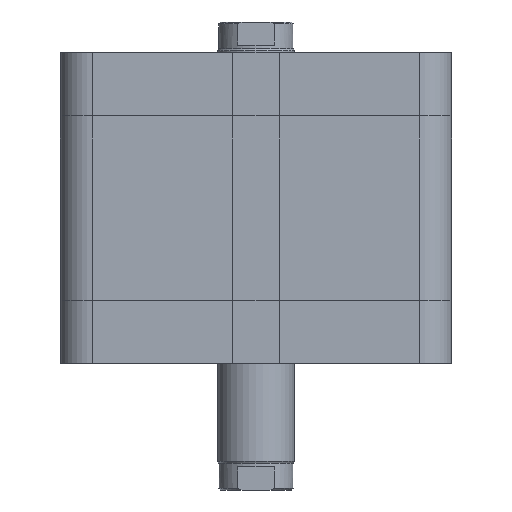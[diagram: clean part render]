
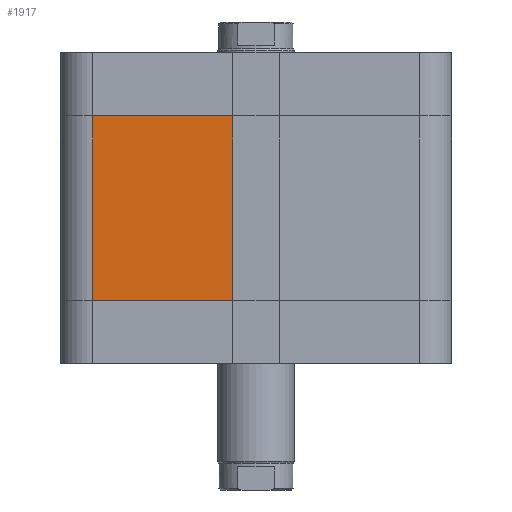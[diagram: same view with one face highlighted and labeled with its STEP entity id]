
A CAD part, front view. The second image highlights one B-rep face of the part: STEP entity #1917.
In plain terms, the highlighted planar face has unit normal (0, -1, 0).
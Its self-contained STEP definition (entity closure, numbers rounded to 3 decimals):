
#1828=CARTESIAN_POINT('',(-42.5,-51.,16.5));
#1829=VERTEX_POINT('',#1828);
#1837=CARTESIAN_POINT('',(-42.5,-51.,64.5));
#1838=VERTEX_POINT('',#1837);
#1839=CARTESIAN_POINT('',(-42.5,-51.,16.5));
#1840=DIRECTION('',(0.0,0.0,1.0));
#1841=VECTOR('',#1840,48.);
#1842=LINE('',#1839,#1841);
#1843=EDGE_CURVE('',#1829,#1838,#1842,.T.);
#1887=CARTESIAN_POINT('',(-6.,-51.0,0.0));
#1888=DIRECTION('',(0.0,-1.0,0.0));
#1889=DIRECTION('',(0.0,0.0,-1.0));
#1890=AXIS2_PLACEMENT_3D('',#1887,#1888,#1889);
#1891=PLANE('',#1890);
#1892=CARTESIAN_POINT('',(-6.,-51.0,16.5));
#1893=VERTEX_POINT('',#1892);
#1894=CARTESIAN_POINT('',(-42.5,-51.,16.5));
#1895=DIRECTION('',(1.0,0.0,0.0));
#1896=VECTOR('',#1895,36.5);
#1897=LINE('',#1894,#1896);
#1898=EDGE_CURVE('',#1829,#1893,#1897,.T.);
#1899=ORIENTED_EDGE('',*,*,#1898,.T.);
#1900=CARTESIAN_POINT('',(-6.,-51.0,64.5));
#1901=VERTEX_POINT('',#1900);
#1902=CARTESIAN_POINT('',(-6.,-51.0,16.5));
#1903=DIRECTION('',(0.0,0.0,1.0));
#1904=VECTOR('',#1903,48.);
#1905=LINE('',#1902,#1904);
#1906=EDGE_CURVE('',#1893,#1901,#1905,.T.);
#1907=ORIENTED_EDGE('',*,*,#1906,.T.);
#1908=CARTESIAN_POINT('',(-42.5,-51.,64.5));
#1909=DIRECTION('',(1.0,0.0,0.0));
#1910=VECTOR('',#1909,36.5);
#1911=LINE('',#1908,#1910);
#1912=EDGE_CURVE('',#1838,#1901,#1911,.T.);
#1913=ORIENTED_EDGE('',*,*,#1912,.F.);
#1914=ORIENTED_EDGE('',*,*,#1843,.F.);
#1915=EDGE_LOOP('',(#1899,#1907,#1913,#1914));
#1916=FACE_OUTER_BOUND('',#1915,.T.);
#1917=ADVANCED_FACE('',(#1916),#1891,.T.);
